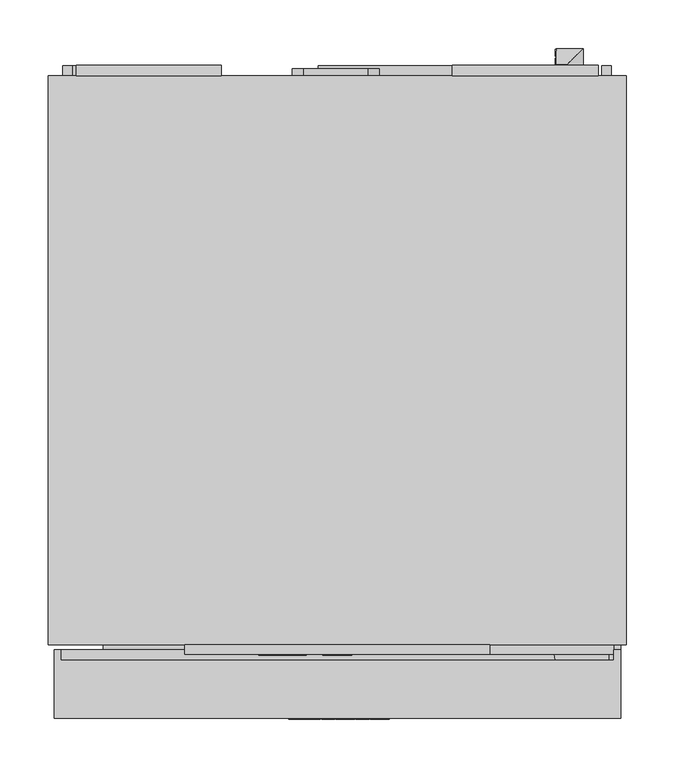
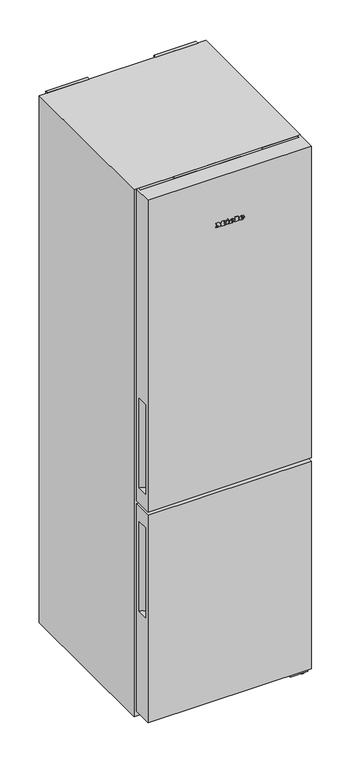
"""IFC4 building model written with IfcOpenShell, lengths in millimetres: proxy geometry, 12336270_OER_KFN4395CD_EL : 38439531_OER_12336270_KFN4395CD_EL."""

from ifc_helpers import new_model, si_unit, point, frame, frame_2d, origin, origin_with_axes, place, context, project, spatial, polyline, circle_curve, ellipse_curve, trimmed, segment, composite_curve, outline, extrude, faceted_brep, source, transform, mapped, element, save
from ifc_brep_helpers import plane_surface, cylinder_surface, revolved_surface, extruded_surface, advanced_brep


def specialty_equipment_4ecd4c18(model_context):
    return source(origin(), model_context, "Body", "SolidModel", [
        advanced_brep(
        [(42.14, -675.5, 1829.3160092), (42.14, -675.5, 1831.0330092), (53.513, -675.5, 1831.0330092), (33.725, -675.5, 1831.0330092), (38.4, -675.5, 1825.2870092), (53.224, -675.5, 1829.3160092), (48.09, -675.5, 1829.3160092), (44.044, -675.5, 1827.4120092), (42.14, -675.5, 1833.2090092), (42.14, -675.5, 1835.0620092), (45.047, -675.5, 1835.0620092), (45.047, -675.5, 1833.2090092), (42.14, -674.5, 1829.3160092), (44.044, -674.5, 1827.4120092), (48.09, -674.5, 1829.3160092), (53.224, -674.5, 1829.3160092), (38.4, -674.5, 1825.2870092), (33.725, -674.5, 1831.0330092), (53.513, -674.5, 1831.0330092), (42.14, -674.5, 1831.0330092), (42.14, -674.5, 1833.2090092), (45.047, -674.5, 1833.2090092), (45.047, -674.5, 1835.0620092), (42.14, -674.5, 1835.0620092)],
        [
            (0, 1),
            (1, 2),
            (2, 3, ellipse_curve(frame((43.619, -675.5, 1831.0330092), z_axis=(0.0, -1.0, 0.0), x_axis=(-1.0, 0.0, 0.0)), 9.894, 8.177)),
            (3, 4, circle_curve(frame((40.3040927, -675.5, 1831.6110092), z_axis=(0.0, -1.0, 0.0), x_axis=(0.0, 0.0, -1.0)), 6.6044337)),
            (4, 5, circle_curve(frame((43.4209364, -675.5, 1836.0990092), z_axis=(0.0, -1.0, 0.0), x_axis=(0.0, 0.0, -1.0)), 11.9209541)),
            (5, 6),
            (6, 7, circle_curve(frame((44.875, -675.5, 1830.8970092), z_axis=(0.0, 1.0, 0.0), x_axis=(0.0, 0.0, -1.0)), 3.5827065)),
            (7, 0, circle_curve(frame((44.044, -675.5, 1829.3160092), z_axis=(0.0, 1.0, 0.0), x_axis=(0.0, 0.0, -1.0)), 1.904)),
            (8, 9),
            (9, 10, circle_curve(frame((43.5935, -675.5, 1835.0620092), z_axis=(0.0, 1.0, 0.0), x_axis=(0.0, 0.0, -1.0)), 1.4535)),
            (10, 11),
            (11, 8),
            (12, 13, circle_curve(frame((44.044, -674.5, 1829.3160092), z_axis=(0.0, -1.0, 0.0), x_axis=(0.0, 0.0, -1.0)), 1.904)),
            (13, 14, circle_curve(frame((44.875, -674.5, 1830.8970092), z_axis=(0.0, -1.0, 0.0), x_axis=(0.0, 0.0, -1.0)), 3.5827065)),
            (14, 15),
            (15, 16, circle_curve(frame((43.4209364, -674.5, 1836.0990092), z_axis=(0.0, 1.0, 0.0), x_axis=(0.0, 0.0, -1.0)), 11.9209541)),
            (16, 17, circle_curve(frame((40.3040927, -674.5, 1831.6110092), z_axis=(0.0, 1.0, 0.0), x_axis=(0.0, 0.0, -1.0)), 6.6044337)),
            (17, 18, ellipse_curve(frame((43.619, -674.5, 1831.0330092), z_axis=(0.0, 1.0, 0.0), x_axis=(-1.0, 0.0, 0.0)), 9.894, 8.177)),
            (18, 19),
            (19, 12),
            (20, 21),
            (21, 22),
            (22, 23, circle_curve(frame((43.5935, -674.5, 1835.0620092), z_axis=(0.0, -1.0, 0.0), x_axis=(0.0, 0.0, -1.0)), 1.4535)),
            (23, 20),
            (0, 12),
            (19, 1),
            (18, 2),
            (5, 15),
            (14, 6),
            (17, 3),
            (13, 7),
            (16, 4),
            (8, 20),
            (23, 9),
            (22, 10),
            (21, 11),
        ],
        [
            plane_surface(frame((42.14, -675.5, 1831.0330092), z_axis=(0.0, -1.0, 0.0), x_axis=(0.0, 0.0, 1.0))),
            plane_surface(frame((42.14, -674.5, 1831.0330092), z_axis=(0.0, 1.0, 0.0), x_axis=(0.0, 0.0, -1.0))),
            plane_surface(frame((42.14, -675.5, 1829.3160092), z_axis=(1.0, 0.0, 0.0), x_axis=(0.0, 1.0, 0.0))),
            plane_surface(frame((42.14, -675.5, 1831.0330092), z_axis=(0.0, 0.0, -1.0), x_axis=(0.0, 1.0, 0.0))),
            plane_surface(frame((53.224, -675.5, 1829.3160092), z_axis=(0.0, 0.0, 1.0), x_axis=(0.0, 1.0, 0.0))),
            extruded_surface(trimmed(ellipse_curve(frame((43.619, -673.5, 1831.0330092), z_axis=(0.0, -1.0, 0.0), x_axis=(-1.0, 0.0, 0.0)), 9.894, 8.177), [point((53.513, -673.5, 1831.0330092))], [point((33.725, -673.5, 1831.0330092))], True, "CARTESIAN"), (0.0, -1.0, 0.0), 1.0),
            revolved_surface(polyline([(44.875, -674.5, 1827.3143026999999), (44.875, -675.5, 1827.3143026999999)]), (44.875, -674.5, 1830.8970092), (0.0, 1.0, 0.0)),
            revolved_surface(polyline([(44.044, -674.5, 1827.4120092), (44.044, -675.5, 1827.4120092)]), (44.044, -674.5, 1829.3160092), (0.0, 1.0, 0.0)),
            cylinder_surface(frame((40.3040927, -674.5, 1831.6110092), z_axis=(0.0, -1.0, 0.0), x_axis=(0.0, 0.0, -1.0)), 6.6044337),
            cylinder_surface(frame((43.4209364, -674.5, 1836.0990092), z_axis=(0.0, -1.0, 0.0), x_axis=(0.0, 0.0, -1.0)), 11.9209541),
            plane_surface(frame((42.14, -675.5, 1833.2090092), z_axis=(1.0, 0.0, 0.0), x_axis=(0.0, 1.0, 0.0))),
            revolved_surface(polyline([(43.5935, -674.5, 1833.6085091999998), (43.5935, -675.5, 1833.6085091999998)]), (43.5935, -674.5, 1835.0620092), (0.0, 1.0, 0.0)),
            plane_surface(frame((45.047, -675.5, 1835.0620092), z_axis=(-1.0, 0.0, 0.0), x_axis=(0.0, 1.0, 0.0))),
            plane_surface(frame((45.047, -675.5, 1833.2090092), z_axis=(0.0, 0.0, 1.0), x_axis=(0.0, 1.0, 0.0))),
        ],
        [
            (0, [[1, 2, 3, 4, 5, 6, 7, 8], [9, 10, 11, 12]]),
            (1, [[13, 14, 15, 16, 17, 18, 19, 20], [21, 22, 23, 24]]),
            (2, [[-1, 25, -20, 26]]),
            (3, [[-2, -26, -19, 27]]),
            (4, [[-6, 28, -15, 29]]),
            (5, [[-3, -27, -18, 30]]),
            (6, [[-7, -29, -14, 31]]),
            (7, [[-8, -31, -13, -25]]),
            (8, [[-4, -30, -17, 32]]),
            (9, [[-5, -32, -16, -28]]),
            (10, [[-9, 33, -24, 34]]),
            (11, [[-10, -34, -23, 35]]),
            (12, [[-11, -35, -22, 36]]),
            (13, [[-12, -36, -21, -33]]),
        ],
    ),
        advanced_brep(
        [(6.661, -675.5, 1829.3160092), (6.661, -675.5, 1831.0330092), (18.034, -675.5, 1831.0330092), (-1.754, -675.5, 1831.0330092), (2.921, -675.5, 1825.2870092), (17.745, -675.5, 1829.3160092), (12.611, -675.5, 1829.3160092), (8.565, -675.5, 1827.4120092), (6.661, -675.5, 1833.2090092), (6.661, -675.5, 1835.0620092), (9.568, -675.5, 1835.0620092), (9.568, -675.5, 1833.2090092), (6.661, -674.5, 1829.3160092), (8.565, -674.5, 1827.4120092), (12.611, -674.5, 1829.3160092), (17.745, -674.5, 1829.3160092), (2.921, -674.5, 1825.2870092), (-1.754, -674.5, 1831.0330092), (18.034, -674.5, 1831.0330092), (6.661, -674.5, 1831.0330092), (6.661, -674.5, 1833.2090092), (9.568, -674.5, 1833.2090092), (9.568, -674.5, 1835.0620092), (6.661, -674.5, 1835.0620092)],
        [
            (0, 1),
            (1, 2),
            (2, 3, ellipse_curve(frame((8.14, -675.5, 1831.0330092), z_axis=(0.0, -1.0, 0.0), x_axis=(-1.0, 0.0, 0.0)), 9.894, 8.177)),
            (3, 4, circle_curve(frame((4.8250927, -675.5, 1831.6110092), z_axis=(0.0, -1.0, 0.0), x_axis=(0.0, 0.0, -1.0)), 6.6044337)),
            (4, 5, circle_curve(frame((7.9419364, -675.5, 1836.0990092), z_axis=(0.0, -1.0, 0.0), x_axis=(0.0, 0.0, -1.0)), 11.9209541)),
            (5, 6),
            (6, 7, circle_curve(frame((9.396, -675.5, 1830.8970092), z_axis=(0.0, 1.0, 0.0), x_axis=(0.0, 0.0, -1.0)), 3.5827065)),
            (7, 0, circle_curve(frame((8.565, -675.5, 1829.3160092), z_axis=(0.0, 1.0, 0.0), x_axis=(0.0, 0.0, -1.0)), 1.904)),
            (8, 9),
            (9, 10, circle_curve(frame((8.1145, -675.5, 1835.0620092), z_axis=(0.0, 1.0, 0.0), x_axis=(0.0, 0.0, -1.0)), 1.4535)),
            (10, 11),
            (11, 8),
            (12, 13, circle_curve(frame((8.565, -674.5, 1829.3160092), z_axis=(0.0, -1.0, 0.0), x_axis=(0.0, 0.0, -1.0)), 1.904)),
            (13, 14, circle_curve(frame((9.396, -674.5, 1830.8970092), z_axis=(0.0, -1.0, 0.0), x_axis=(0.0, 0.0, -1.0)), 3.5827065)),
            (14, 15),
            (15, 16, circle_curve(frame((7.9419364, -674.5, 1836.0990092), z_axis=(0.0, 1.0, 0.0), x_axis=(0.0, 0.0, -1.0)), 11.9209541)),
            (16, 17, circle_curve(frame((4.8250927, -674.5, 1831.6110092), z_axis=(0.0, 1.0, 0.0), x_axis=(0.0, 0.0, -1.0)), 6.6044337)),
            (17, 18, ellipse_curve(frame((8.14, -674.5, 1831.0330092), z_axis=(0.0, 1.0, 0.0), x_axis=(-1.0, 0.0, 0.0)), 9.894, 8.177)),
            (18, 19),
            (19, 12),
            (20, 21),
            (21, 22),
            (22, 23, circle_curve(frame((8.1145, -674.5, 1835.0620092), z_axis=(0.0, -1.0, 0.0), x_axis=(0.0, 0.0, -1.0)), 1.4535)),
            (23, 20),
            (0, 12),
            (19, 1),
            (18, 2),
            (5, 15),
            (14, 6),
            (17, 3),
            (13, 7),
            (16, 4),
            (8, 20),
            (23, 9),
            (22, 10),
            (21, 11),
        ],
        [
            plane_surface(frame((6.661, -675.5, 1831.0330092), z_axis=(0.0, -1.0, 0.0), x_axis=(0.0, 0.0, 1.0))),
            plane_surface(frame((6.661, -674.5, 1831.0330092), z_axis=(0.0, 1.0, 0.0), x_axis=(0.0, 0.0, -1.0))),
            plane_surface(frame((6.661, -675.5, 1829.3160092), z_axis=(1.0, 0.0, 0.0), x_axis=(0.0, 1.0, 0.0))),
            plane_surface(frame((6.661, -675.5, 1831.0330092), z_axis=(0.0, 0.0, -1.0), x_axis=(0.0, 1.0, 0.0))),
            plane_surface(frame((17.745, -675.5, 1829.3160092), z_axis=(0.0, 0.0, 1.0), x_axis=(0.0, 1.0, 0.0))),
            extruded_surface(trimmed(ellipse_curve(frame((8.14, -673.5, 1831.0330092), z_axis=(0.0, -1.0, 0.0), x_axis=(-1.0, 0.0, 0.0)), 9.894, 8.177), [point((18.034, -673.5, 1831.0330092))], [point((-1.754, -673.5, 1831.0330092))], True, "CARTESIAN"), (0.0, -1.0, 0.0), 1.0),
            revolved_surface(polyline([(9.396, -674.5, 1827.3143026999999), (9.396, -675.5, 1827.3143026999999)]), (9.396, -674.5, 1830.8970092), (0.0, 1.0, 0.0)),
            revolved_surface(polyline([(8.565, -674.5, 1827.4120092), (8.565, -675.5, 1827.4120092)]), (8.565, -674.5, 1829.3160092), (0.0, 1.0, 0.0)),
            cylinder_surface(frame((4.8250927, -674.5, 1831.6110092), z_axis=(0.0, -1.0, 0.0), x_axis=(0.0, 0.0, -1.0)), 6.6044337),
            cylinder_surface(frame((7.9419364, -674.5, 1836.0990092), z_axis=(0.0, -1.0, 0.0), x_axis=(0.0, 0.0, -1.0)), 11.9209541),
            plane_surface(frame((6.661, -675.5, 1833.2090092), z_axis=(1.0, 0.0, 0.0), x_axis=(0.0, 1.0, 0.0))),
            revolved_surface(polyline([(8.1145, -674.5, 1833.6085091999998), (8.1145, -675.5, 1833.6085091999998)]), (8.1145, -674.5, 1835.0620092), (0.0, 1.0, 0.0)),
            plane_surface(frame((9.568, -675.5, 1835.0620092), z_axis=(-1.0, 0.0, 0.0), x_axis=(0.0, 1.0, 0.0))),
            plane_surface(frame((9.568, -675.5, 1833.2090092), z_axis=(0.0, 0.0, 1.0), x_axis=(0.0, 1.0, 0.0))),
        ],
        [
            (0, [[1, 2, 3, 4, 5, 6, 7, 8], [9, 10, 11, 12]]),
            (1, [[13, 14, 15, 16, 17, 18, 19, 20], [21, 22, 23, 24]]),
            (2, [[-1, 25, -20, 26]]),
            (3, [[-2, -26, -19, 27]]),
            (4, [[-6, 28, -15, 29]]),
            (5, [[-3, -27, -18, 30]]),
            (6, [[-7, -29, -14, 31]]),
            (7, [[-8, -31, -13, -25]]),
            (8, [[-4, -30, -17, 32]]),
            (9, [[-5, -32, -16, -28]]),
            (10, [[-9, 33, -24, 34]]),
            (11, [[-10, -34, -23, 35]]),
            (12, [[-11, -35, -22, 36]]),
            (13, [[-12, -36, -21, -33]]),
        ],
    ),
        extrude(outline(polyline([(1841.2840092, -11.92), (1838.5300092, -10.628), (1841.2160092, -4.865), (1843.9700092, -6.14), (1841.2840092, -11.92)])), frame((0.0, -675.5, 0.0), z_axis=(0.0, 1.0, 0.0), x_axis=(0.0, 0.0, 1.0)), (0.0, 0.0, 1.0), 1.0),
        extrude(outline(polyline([(1838.1560092, -16.119), (1835.1130092, -16.119), (1835.1130092, -14.096), (1828.1430092, -14.096), (1828.1430092, -16.119), (1825.2870092, -16.119), (1825.2870092, -2.706), (1828.1430092, -2.706), (1828.1430092, -4.678), (1838.1560092, -4.678), (1838.1560092, -16.119)])), frame((0.0, -675.5, 0.0), z_axis=(0.0, 1.0, 0.0), x_axis=(0.0, 0.0, 1.0)), (0.0, 0.0, 1.0), 1.0),
        extrude(outline(polyline([(1839.5160092, 18.986), (1839.5160092, 21.026), (1828.1430092, 21.026), (1828.1430092, 18.986), (1825.2870092, 18.986), (1825.2870092, 32.773), (1828.1430092, 32.773), (1828.1430092, 30.682), (1842.2870092, 30.682), (1842.2870092, 18.986), (1839.5160092, 18.986)])), frame((0.0, -675.5, 0.0), z_axis=(0.0, 1.0, 0.0), x_axis=(0.0, 0.0, 1.0)), (0.0, 0.0, 1.0), 1.0),
        extrude(outline(polyline([(1839.5160092, -50.0), (1839.5160092, -47.943), (1828.1430092, -47.943), (1828.1430092, -50.0), (1825.2870092, -50.0), (1825.2870092, -42.52), (1828.1430092, -42.52), (1828.1430092, -44.56), (1835.317134, -44.56), (1825.2870092, -36.961), (1835.7272315, -29.328), (1828.1430092, -29.328), (1828.1430092, -31.419), (1825.2870092, -31.419), (1825.2870092, -17.853), (1828.1430092, -17.853), (1828.1430092, -20.012), (1839.5160092, -20.012), (1839.5160092, -17.853), (1842.2870092, -17.853), (1842.2870092, -28.206), (1835.9120092, -33.17), (1842.2870092, -38.151), (1842.2870092, -50.0), (1839.5160092, -50.0)])), frame((0.0, -675.5, 0.0), z_axis=(0.0, 1.0, 0.0), x_axis=(0.0, 0.0, 1.0)), (0.0, 0.0, 1.0), 1.0),
        advanced_brep(
        [(-37.64, -609.5, 1987.896), (-37.64, -609.5, 1988.704), (-32.288, -609.5, 1988.704), (-41.6, -609.5, 1988.704), (-39.4, -609.5, 1986.0), (-32.424, -609.5, 1987.896), (-34.84, -609.5, 1987.896), (-36.744, -609.5, 1987.0), (-37.64, -609.5, 1989.728), (-37.64, -609.5, 1990.6), (-36.272, -609.5, 1990.6), (-36.272, -609.5, 1989.728), (-37.64, -608.5, 1987.896), (-36.744, -608.5, 1987.0), (-34.84, -608.5, 1987.896), (-32.424, -608.5, 1987.896), (-39.4, -608.5, 1986.0), (-41.6, -608.5, 1988.704), (-32.288, -608.5, 1988.704), (-37.64, -608.5, 1988.704), (-37.64, -608.5, 1989.728), (-36.272, -608.5, 1989.728), (-36.272, -608.5, 1990.6), (-37.64, -608.5, 1990.6)],
        [
            (0, 1),
            (1, 2),
            (2, 3, ellipse_curve(frame((-36.944, -609.5, 1988.704), z_axis=(0.0, -1.0, 0.0), x_axis=(-1.0, 0.0, 0.0)), 4.656, 3.848)),
            (3, 4, circle_curve(frame((-38.5039564, -609.5, 1988.976), z_axis=(0.0, -1.0, 0.0), x_axis=(0.0, 0.0, -1.0)), 3.1079688)),
            (4, 5, circle_curve(frame((-37.0372064, -609.5, 1991.088), z_axis=(0.0, -1.0, 0.0), x_axis=(0.0, 0.0, -1.0)), 5.6098607)),
            (5, 6),
            (6, 7, circle_curve(frame((-36.3529412, -609.5, 1988.64), z_axis=(0.0, 1.0, 0.0), x_axis=(0.0, 0.0, -1.0)), 1.6859795)),
            (7, 0, circle_curve(frame((-36.744, -609.5, 1987.896), z_axis=(0.0, 1.0, 0.0), x_axis=(0.0, 0.0, -1.0)), 0.896)),
            (8, 9),
            (9, 10, circle_curve(frame((-36.956, -609.5, 1990.6), z_axis=(0.0, 1.0, 0.0), x_axis=(0.0, 0.0, -1.0)), 0.684)),
            (10, 11),
            (11, 8),
            (12, 13, circle_curve(frame((-36.744, -608.5, 1987.896), z_axis=(0.0, -1.0, 0.0), x_axis=(0.0, 0.0, -1.0)), 0.896)),
            (13, 14, circle_curve(frame((-36.3529412, -608.5, 1988.64), z_axis=(0.0, -1.0, 0.0), x_axis=(0.0, 0.0, -1.0)), 1.6859795)),
            (14, 15),
            (15, 16, circle_curve(frame((-37.0372064, -608.5, 1991.088), z_axis=(0.0, 1.0, 0.0), x_axis=(0.0, 0.0, -1.0)), 5.6098607)),
            (16, 17, circle_curve(frame((-38.5039564, -608.5, 1988.976), z_axis=(0.0, 1.0, 0.0), x_axis=(0.0, 0.0, -1.0)), 3.1079688)),
            (17, 18, ellipse_curve(frame((-36.944, -608.5, 1988.704), z_axis=(0.0, 1.0, 0.0), x_axis=(-1.0, 0.0, 0.0)), 4.656, 3.848)),
            (18, 19),
            (19, 12),
            (20, 21),
            (21, 22),
            (22, 23, circle_curve(frame((-36.956, -608.5, 1990.6), z_axis=(0.0, -1.0, 0.0), x_axis=(0.0, 0.0, -1.0)), 0.684)),
            (23, 20),
            (0, 12),
            (19, 1),
            (18, 2),
            (5, 15),
            (14, 6),
            (17, 3),
            (13, 7),
            (16, 4),
            (8, 20),
            (23, 9),
            (22, 10),
            (21, 11),
        ],
        [
            plane_surface(frame((-37.64, -609.5, 1988.704), z_axis=(0.0, -1.0, 0.0), x_axis=(0.0, 0.0, 1.0))),
            plane_surface(frame((-37.64, -608.5, 1988.704), z_axis=(0.0, 1.0, 0.0), x_axis=(0.0, 0.0, -1.0))),
            plane_surface(frame((-37.64, -609.5, 1987.896), z_axis=(1.0, 0.0, 0.0), x_axis=(0.0, 1.0, 0.0))),
            plane_surface(frame((-37.64, -609.5, 1988.704), z_axis=(0.0, 0.0, -1.0), x_axis=(0.0, 1.0, 0.0))),
            plane_surface(frame((-32.424, -609.5, 1987.896), z_axis=(0.0, 0.0, 1.0), x_axis=(0.0, 1.0, 0.0))),
            extruded_surface(trimmed(ellipse_curve(frame((-36.944, -607.5, 1988.704), z_axis=(0.0, -1.0, 0.0), x_axis=(-1.0, 0.0, 0.0)), 4.656, 3.848), [point((-32.288, -607.5, 1988.704))], [point((-41.6, -607.5, 1988.704))], True, "CARTESIAN"), (0.0, -1.0, 0.0), 1.0),
            revolved_surface(polyline([(-36.3529412, -608.5, 1986.9540205), (-36.3529412, -609.5, 1986.9540205)]), (-36.3529412, -608.5, 1988.64), (0.0, 1.0, 0.0)),
            revolved_surface(polyline([(-36.744, -608.5, 1987.0), (-36.744, -609.5, 1987.0)]), (-36.744, -608.5, 1987.896), (0.0, 1.0, 0.0)),
            cylinder_surface(frame((-38.5039564, -608.5, 1988.976), z_axis=(0.0, -1.0, 0.0), x_axis=(0.0, 0.0, -1.0)), 3.1079688),
            cylinder_surface(frame((-37.0372064, -608.5, 1991.088), z_axis=(0.0, -1.0, 0.0), x_axis=(0.0, 0.0, -1.0)), 5.6098607),
            plane_surface(frame((-37.64, -609.5, 1989.728), z_axis=(1.0, 0.0, 0.0), x_axis=(0.0, 1.0, 0.0))),
            revolved_surface(polyline([(-36.956, -608.5, 1989.916), (-36.956, -609.5, 1989.916)]), (-36.956, -608.5, 1990.6), (0.0, 1.0, 0.0)),
            plane_surface(frame((-36.272, -609.5, 1990.6), z_axis=(-1.0, 0.0, 0.0), x_axis=(0.0, 1.0, 0.0))),
            plane_surface(frame((-36.272, -609.5, 1989.728), z_axis=(0.0, 0.0, 1.0), x_axis=(0.0, 1.0, 0.0))),
        ],
        [
            (0, [[1, 2, 3, 4, 5, 6, 7, 8], [9, 10, 11, 12]]),
            (1, [[13, 14, 15, 16, 17, 18, 19, 20], [21, 22, 23, 24]]),
            (2, [[-1, 25, -20, 26]]),
            (3, [[-2, -26, -19, 27]]),
            (4, [[-6, 28, -15, 29]]),
            (5, [[-3, -27, -18, 30]]),
            (6, [[-7, -29, -14, 31]]),
            (7, [[-8, -31, -13, -25]]),
            (8, [[-4, -30, -17, 32]]),
            (9, [[-5, -32, -16, -28]]),
            (10, [[-9, 33, -24, 34]]),
            (11, [[-10, -34, -23, 35]]),
            (12, [[-11, -35, -22, 36]]),
            (13, [[-12, -36, -21, -33]]),
        ],
    ),
        advanced_brep(
        [(-54.336, -609.5, 1987.896), (-54.336, -609.5, 1988.704), (-48.984, -609.5, 1988.704), (-58.296, -609.5, 1988.704), (-56.096, -609.5, 1986.0), (-49.12, -609.5, 1987.896), (-51.536, -609.5, 1987.896), (-53.44, -609.5, 1987.0), (-54.336, -609.5, 1989.728), (-54.336, -609.5, 1990.6), (-52.968, -609.5, 1990.6), (-52.968, -609.5, 1989.728), (-54.336, -608.5, 1987.896), (-53.44, -608.5, 1987.0), (-51.536, -608.5, 1987.896), (-49.12, -608.5, 1987.896), (-56.096, -608.5, 1986.0), (-58.296, -608.5, 1988.704), (-48.984, -608.5, 1988.704), (-54.336, -608.5, 1988.704), (-54.336, -608.5, 1989.728), (-52.968, -608.5, 1989.728), (-52.968, -608.5, 1990.6), (-54.336, -608.5, 1990.6)],
        [
            (0, 1),
            (1, 2),
            (2, 3, ellipse_curve(frame((-53.64, -609.5, 1988.704), z_axis=(0.0, -1.0, 0.0), x_axis=(-1.0, 0.0, 0.0)), 4.656, 3.848)),
            (3, 4, circle_curve(frame((-55.1999564, -609.5, 1988.976), z_axis=(0.0, -1.0, 0.0), x_axis=(0.0, 0.0, -1.0)), 3.1079688)),
            (4, 5, circle_curve(frame((-53.7332064, -609.5, 1991.088), z_axis=(0.0, -1.0, 0.0), x_axis=(0.0, 0.0, -1.0)), 5.6098607)),
            (5, 6),
            (6, 7, circle_curve(frame((-53.0489412, -609.5, 1988.64), z_axis=(0.0, 1.0, 0.0), x_axis=(0.0, 0.0, -1.0)), 1.6859795)),
            (7, 0, circle_curve(frame((-53.44, -609.5, 1987.896), z_axis=(0.0, 1.0, 0.0), x_axis=(0.0, 0.0, -1.0)), 0.896)),
            (8, 9),
            (9, 10, circle_curve(frame((-53.652, -609.5, 1990.6), z_axis=(0.0, 1.0, 0.0), x_axis=(0.0, 0.0, -1.0)), 0.684)),
            (10, 11),
            (11, 8),
            (12, 13, circle_curve(frame((-53.44, -608.5, 1987.896), z_axis=(0.0, -1.0, 0.0), x_axis=(0.0, 0.0, -1.0)), 0.896)),
            (13, 14, circle_curve(frame((-53.0489412, -608.5, 1988.64), z_axis=(0.0, -1.0, 0.0), x_axis=(0.0, 0.0, -1.0)), 1.6859795)),
            (14, 15),
            (15, 16, circle_curve(frame((-53.7332064, -608.5, 1991.088), z_axis=(0.0, 1.0, 0.0), x_axis=(0.0, 0.0, -1.0)), 5.6098607)),
            (16, 17, circle_curve(frame((-55.1999564, -608.5, 1988.976), z_axis=(0.0, 1.0, 0.0), x_axis=(0.0, 0.0, -1.0)), 3.1079688)),
            (17, 18, ellipse_curve(frame((-53.64, -608.5, 1988.704), z_axis=(0.0, 1.0, 0.0), x_axis=(-1.0, 0.0, 0.0)), 4.656, 3.848)),
            (18, 19),
            (19, 12),
            (20, 21),
            (21, 22),
            (22, 23, circle_curve(frame((-53.652, -608.5, 1990.6), z_axis=(0.0, -1.0, 0.0), x_axis=(0.0, 0.0, -1.0)), 0.684)),
            (23, 20),
            (0, 12),
            (19, 1),
            (18, 2),
            (5, 15),
            (14, 6),
            (17, 3),
            (13, 7),
            (16, 4),
            (8, 20),
            (23, 9),
            (22, 10),
            (21, 11),
        ],
        [
            plane_surface(frame((-54.336, -609.5, 1988.704), z_axis=(0.0, -1.0, 0.0), x_axis=(0.0, 0.0, 1.0))),
            plane_surface(frame((-54.336, -608.5, 1988.704), z_axis=(0.0, 1.0, 0.0), x_axis=(0.0, 0.0, -1.0))),
            plane_surface(frame((-54.336, -609.5, 1987.896), z_axis=(1.0, 0.0, 0.0), x_axis=(0.0, 1.0, 0.0))),
            plane_surface(frame((-54.336, -609.5, 1988.704), z_axis=(0.0, 0.0, -1.0), x_axis=(0.0, 1.0, 0.0))),
            plane_surface(frame((-49.12, -609.5, 1987.896), z_axis=(0.0, 0.0, 1.0), x_axis=(0.0, 1.0, 0.0))),
            extruded_surface(trimmed(ellipse_curve(frame((-53.64, -607.5, 1988.704), z_axis=(0.0, -1.0, 0.0), x_axis=(-1.0, 0.0, 0.0)), 4.656, 3.848), [point((-48.984, -607.5, 1988.704))], [point((-58.296, -607.5, 1988.704))], True, "CARTESIAN"), (0.0, -1.0, 0.0), 1.0),
            revolved_surface(polyline([(-53.0489412, -608.5, 1986.9540205), (-53.0489412, -609.5, 1986.9540205)]), (-53.0489412, -608.5, 1988.64), (0.0, 1.0, 0.0)),
            revolved_surface(polyline([(-53.44, -608.5, 1987.0), (-53.44, -609.5, 1987.0)]), (-53.44, -608.5, 1987.896), (0.0, 1.0, 0.0)),
            cylinder_surface(frame((-55.1999564, -608.5, 1988.976), z_axis=(0.0, -1.0, 0.0), x_axis=(0.0, 0.0, -1.0)), 3.1079688),
            cylinder_surface(frame((-53.7332064, -608.5, 1991.088), z_axis=(0.0, -1.0, 0.0), x_axis=(0.0, 0.0, -1.0)), 5.6098607),
            plane_surface(frame((-54.336, -609.5, 1989.728), z_axis=(1.0, 0.0, 0.0), x_axis=(0.0, 1.0, 0.0))),
            revolved_surface(polyline([(-53.652, -608.5, 1989.916), (-53.652, -609.5, 1989.916)]), (-53.652, -608.5, 1990.6), (0.0, 1.0, 0.0)),
            plane_surface(frame((-52.968, -609.5, 1990.6), z_axis=(-1.0, 0.0, 0.0), x_axis=(0.0, 1.0, 0.0))),
            plane_surface(frame((-52.968, -609.5, 1989.728), z_axis=(0.0, 0.0, 1.0), x_axis=(0.0, 1.0, 0.0))),
        ],
        [
            (0, [[1, 2, 3, 4, 5, 6, 7, 8], [9, 10, 11, 12]]),
            (1, [[13, 14, 15, 16, 17, 18, 19, 20], [21, 22, 23, 24]]),
            (2, [[-1, 25, -20, 26]]),
            (3, [[-2, -26, -19, 27]]),
            (4, [[-6, 28, -15, 29]]),
            (5, [[-3, -27, -18, 30]]),
            (6, [[-7, -29, -14, 31]]),
            (7, [[-8, -31, -13, -25]]),
            (8, [[-4, -30, -17, 32]]),
            (9, [[-5, -32, -16, -28]]),
            (10, [[-9, 33, -24, 34]]),
            (11, [[-10, -34, -23, 35]]),
            (12, [[-11, -35, -22, 36]]),
            (13, [[-12, -36, -21, -33]]),
        ],
    ),
        extrude(outline(polyline([(1993.528, -63.08), (1992.232, -62.472), (1993.496, -59.76), (1994.792, -60.36), (1993.528, -63.08)])), frame((0.0, -609.5, 0.0), z_axis=(0.0, 1.0, 0.0), x_axis=(0.0, 0.0, 1.0)), (0.0, 0.0, 1.0), 1.0),
        extrude(outline(polyline([(1992.056, -65.056), (1990.624, -65.056), (1990.624, -64.104), (1987.344, -64.104), (1987.344, -65.056), (1986.0, -65.056), (1986.0, -58.744), (1987.344, -58.744), (1987.344, -59.672), (1992.056, -59.672), (1992.056, -65.056)])), frame((0.0, -609.5, 0.0), z_axis=(0.0, 1.0, 0.0), x_axis=(0.0, 0.0, 1.0)), (0.0, 0.0, 1.0), 1.0),
        extrude(outline(polyline([(1992.696, -48.536), (1992.696, -47.576), (1987.344, -47.576), (1987.344, -48.536), (1986.0, -48.536), (1986.0, -42.048), (1987.344, -42.048), (1987.344, -43.032), (1994.0, -43.032), (1994.0, -48.536), (1992.696, -48.536)])), frame((0.0, -609.5, 0.0), z_axis=(0.0, 1.0, 0.0), x_axis=(0.0, 0.0, 1.0)), (0.0, 0.0, 1.0), 1.0),
        extrude(outline(polyline([(1992.696, -81.0), (1992.696, -80.032), (1987.344, -80.032), (1987.344, -81.0), (1986.0, -81.0), (1986.0, -77.48), (1987.344, -77.48), (1987.344, -78.44), (1990.7471247, -78.44), (1986.0, -74.864), (1990.8152223, -71.272), (1987.344, -71.272), (1987.344, -72.256), (1986.0, -72.256), (1986.0, -65.872), (1987.344, -65.872), (1987.344, -66.888), (1992.696, -66.888), (1992.696, -65.872), (1994.0, -65.872), (1994.0, -70.744), (1991.0, -73.08), (1994.0, -75.424), (1994.0, -81.0), (1992.696, -81.0)])), frame((0.0, -609.5, 0.0), z_axis=(0.0, 1.0, 0.0), x_axis=(0.0, 0.0, 1.0)), (0.0, 0.0, 1.0), 1.0),
        extrude(outline(polyline([(15.0, -609.5), (-15.0, -609.5), (-15.0, -606.5), (15.0, -606.5), (15.0, -609.5)])), frame((0.0, 0.0, 1972.0), z_axis=(0.0, 0.0, 1.0), x_axis=(1.0, 0.0, 0.0)), (0.0, 0.0, 1.0), 28.0),
        extrude(outline(polyline([(2005.5, 105.0), (2005.5, -105.0), (1966.5, -105.0), (1966.5, 105.0), (2005.5, 105.0)]), holes=[polyline([(2000.0, -15.0), (2000.0, 15.0), (1972.0, 15.0), (1972.0, -15.0), (2000.0, -15.0)])]), frame((0.0, -608.5, 0.0), z_axis=(0.0, 1.0, 0.0), x_axis=(0.0, 0.0, 1.0)), (0.0, 0.0, 1.0), 2.0),
        faceted_brep([(157.5, -598.5, 1962.0), (157.5, -608.5, 1962.0), (-157.5, -608.5, 1962.0), (-157.5, -598.5, 1962.0), (157.5, -598.5, 2010.0), (-157.5, -598.5, 2010.0), (-157.5, -608.5, 2010.0), (157.5, -608.5, 2010.0), (-105.0, -608.5, 2005.5), (105.0, -608.5, 2005.5), (105.0, -608.5, 1966.5), (-105.0, -608.5, 1966.5), (105.0, -606.5, 2005.5), (-105.0, -606.5, 2005.5), (-105.0, -606.5, 1966.5), (105.0, -606.5, 1966.5)], [[[0, 1, 2, 3]], [[4, 5, 6, 7]], [[0, 3, 5, 4]], [[3, 2, 6, 5]], [[2, 1, 7, 6], [8, 9, 10, 11]], [[1, 0, 4, 7]], [[12, 13, 14, 15]], [[13, 12, 9, 8]], [[14, 13, 8, 11]], [[15, 14, 11, 10]], [[12, 15, 10, 9]]]),
        extrude(outline(polyline([(282.8810028, -10.5), (272.8810028, -10.5), (272.8810028, 0.0), (282.8810028, 0.0), (282.8810028, -10.5)])), frame((0.0, 0.0, 237.8679319), z_axis=(0.0, 0.0, 1.0), x_axis=(1.0, 0.0, 0.0)), (0.0, 0.0, 1.0), 20.0),
        extrude(outline(polyline([(-273.8280905, -10.5), (-283.8280905, -10.5), (-283.8280905, 0.0), (-273.8280905, 0.0), (-273.8280905, -10.5)])), frame((0.0, 0.0, 238.6137901), z_axis=(0.0, 0.0, 1.0), x_axis=(1.0, 0.0, 0.0)), (0.0, 0.0, 1.0), 20.0),
        extrude(outline(composite_curve([segment(trimmed(circle_curve(frame_2d((840.8612688, -34.7533113)), 12.0), [point((852.8612688, -34.7533113))], [point((840.8612688, -46.7533113))], False, "CARTESIAN"), True, "CONTINUOUS"), segment(polyline([(840.8612688, -46.7533113), (814.8612688, -46.7533113)]), True, "CONTINUOUS"), segment(trimmed(circle_curve(frame_2d((814.8612688, -34.7533113)), 12.0), [point((814.8612688, -46.7533113))], [point((802.8612688, -34.7533113))], False, "CARTESIAN"), True, "CONTINUOUS"), segment(polyline([(802.8612688, -34.7533113), (802.8612688, 31.2466887)]), True, "CONTINUOUS"), segment(trimmed(circle_curve(frame_2d((814.8612688, 31.2466887)), 12.0), [point((802.8612688, 31.2466887))], [point((814.8612688, 43.2466887))], False, "CARTESIAN"), True, "CONTINUOUS"), segment(polyline([(814.8612688, 43.2466887), (840.8612688, 43.2466887)]), True, "CONTINUOUS"), segment(trimmed(circle_curve(frame_2d((840.8612688, 31.2466887)), 12.0), [point((840.8612688, 43.2466887))], [point((852.8612688, 31.2466887))], False, "CARTESIAN"), True, "CONTINUOUS"), segment(polyline([(852.8612688, 31.2466887), (852.8612688, -34.7533113)]), True, "CONTINUOUS")], self_intersect=False)), frame((0.0, -10.5, 0.0), z_axis=(0.0, 1.0, 0.0), x_axis=(0.0, 0.0, 1.0)), (0.0, 0.0, 1.0), 7.0),
        extrude(outline(polyline([(151.5, -10.5), (-19.5, -10.5), (-19.5, 0.0), (151.5, 0.0), (151.5, -10.5)])), frame((0.0, 0.0, 64.0), z_axis=(0.0, 0.0, 1.0), x_axis=(1.0, 0.0, 0.0)), (0.0, 0.0, 1.0), 96.0),
        extrude(outline(polyline([(-135.5, -10.5), (-274.5, -10.5), (-274.5, 0.0), (-135.5, 0.0), (-135.5, -10.5)])), frame((0.0, 0.0, 64.0), z_axis=(0.0, 0.0, 1.0), x_axis=(1.0, 0.0, 0.0)), (0.0, 0.0, 1.0), 96.0),
        extrude(outline(polyline([(269.5372046, -10.5), (118.7052435, -10.5), (118.7052435, 0.0), (269.5372046, 0.0), (269.5372046, -10.5)])), frame((0.0, 0.0, 1986.0), z_axis=(0.0, 0.0, 1.0), x_axis=(1.0, 0.0, 0.0)), (0.0, 0.0, 1.0), 24.0),
        extrude(outline(polyline([(-119.8489664, -10.5), (-269.5372046, -10.5), (-269.5372046, 0.0), (-119.8489664, 0.0), (-119.8489664, -10.5)])), frame((0.0, 0.0, 1986.0), z_axis=(0.0, 0.0, 1.0), x_axis=(1.0, 0.0, 0.0)), (0.0, 0.0, 1.0), 24.0),
        extrude(outline(composite_curve([segment(trimmed(circle_curve(frame_2d((-247.5, -584.5103704)), 10.0), [point((-257.5, -584.5103704))], [point((-237.5, -584.5103704))], False, "CARTESIAN"), True, "CONTINUOUS"), segment(trimmed(circle_curve(frame_2d((-247.5, -584.5103704)), 10.0), [point((-237.5, -584.5103704))], [point((-257.5, -584.5103704))], False, "CARTESIAN"), True, "CONTINUOUS")], self_intersect=False)), origin_with_axes(), (0.0, 0.0, 1.0), 15.0),
        extrude(outline(composite_curve([segment(trimmed(circle_curve(frame_2d((247.5, -584.4761218)), 10.0), [point((237.5, -584.4761218))], [point((257.5, -584.4761218))], False, "CARTESIAN"), True, "CONTINUOUS"), segment(trimmed(circle_curve(frame_2d((247.5, -584.4761218)), 10.0), [point((257.5, -584.4761218))], [point((237.5, -584.4761218))], False, "CARTESIAN"), True, "CONTINUOUS")], self_intersect=False)), origin_with_axes(), (0.0, 0.0, 1.0), 15.0),
        extrude(outline(polyline([(271.8948956, -31.0417683), (271.8948956, -529.6387407), (-271.8948956, -529.6387407), (-271.8948956, -31.0417683), (271.8948956, -31.0417683)])), frame((0.0, 0.0, 5.0), z_axis=(0.0, 0.0, 1.0), x_axis=(1.0, 0.0, 0.0)), (0.0, 0.0, 1.0), 10.0),
        faceted_brep([(298.5, -10.5, 2010.0), (-298.5, -10.5, 2010.0), (-298.5, -598.5, 2010.0), (298.5, -598.5, 2010.0), (298.5, -10.5, 15.0), (298.5, -598.5, 15.0), (-298.5, -598.5, 15.0), (-298.5, -10.5, 15.0), (-240.0, -598.5, 1945.0), (240.0, -598.5, 1945.0), (240.0, -598.5, 848.0), (-240.0, -598.5, 848.0), (-240.0, -598.5, 800.0), (240.0, -598.5, 800.0), (240.0, -598.5, 165.0), (-240.0, -598.5, 165.0), (-240.0, -71.5, 1945.0), (240.0, -71.5, 1945.0), (240.0, -71.5, 848.0), (-240.0, -71.5, 848.0), (-240.0, -71.5, 800.0), (240.0, -71.5, 800.0), (240.0, -71.5, 165.0), (-240.0, -71.5, 165.0)], [[[0, 1, 2, 3]], [[4, 5, 6, 7]], [[1, 0, 4, 7]], [[2, 1, 7, 6]], [[3, 2, 6, 5], [8, 9, 10, 11], [12, 13, 14, 15]], [[0, 3, 5, 4]], [[16, 17, 9, 8]], [[18, 19, 11, 10]], [[17, 16, 19, 18]], [[19, 16, 8, 11]], [[17, 18, 10, 9]], [[20, 21, 13, 12]], [[22, 23, 15, 14]], [[21, 20, 23, 22]], [[23, 20, 12, 15]], [[21, 22, 14, 13]]]),
        extrude(outline(polyline([(-43.4087271, 0.0), (-57.6632757, 0.0), (-61.1643134, 5.0), (-41.0771888, 5.0), (-43.4087271, 0.0)])), frame((248.5, 0.0, 0.0), z_axis=(1.0, 0.0, 0.0), x_axis=(0.0, 1.0, 0.0)), (0.0, 0.0, 1.0), 15.0),
        extrude(outline(polyline([(-43.4087271, 0.0), (-57.6632757, 0.0), (-61.1643134, 5.0), (-41.0771888, 5.0), (-43.4087271, 0.0)])), frame((-263.5, 0.0, 0.0), z_axis=(1.0, 0.0, 0.0), x_axis=(0.0, 1.0, 0.0)), (0.0, 0.0, 1.0), 15.0),
        extrude(outline(polyline([(16.8772603, 142.0), (9.5, 142.0), (9.5, 143.2557039), (15.6215564, 143.2557039), (15.6215564, 146.5519266), (9.970889, 146.5519266), (9.970889, 147.8076304), (15.6215564, 147.8076304), (15.6215564, 150.7899271), (9.656963, 150.7899271), (9.656963, 152.045631), (16.8772603, 152.045631), (16.8772603, 142.0)])), frame((224.9201307, 0.0, 0.0), z_axis=(1.0, 0.0, 0.0), x_axis=(0.0, 1.0, 0.0)), (0.0, 0.0, 1.0), 1.0),
        extrude(outline(polyline([(7.6164442, 142.0), (1.3379248, 142.0), (1.3379248, 143.2557039), (6.3607403, 143.2557039), (6.3607403, 152.045631), (7.6164442, 152.045631), (7.6164442, 142.0)])), frame((224.9201307, 0.0, 0.0), z_axis=(1.0, 0.0, 0.0), x_axis=(0.0, 1.0, 0.0)), (0.0, 0.0, 1.0), 1.0),
        advanced_brep(
        [(253.9201307, -10.5, 147.0), (237.9201307, -10.5, 147.0), (253.9201307, 17.5, 147.0), (237.9201307, 1.5, 147.0), (225.9201307, 17.5, 147.0), (225.9201307, 1.5, 147.0)],
        [
            (0, 1, circle_curve(frame((245.9201307, -10.5, 147.0), z_axis=(0.0, -1.0, 0.0), x_axis=(-1.0, 0.0, 0.0)), 8.0)),
            (1, 0, circle_curve(frame((245.9201307, -10.5, 147.0), z_axis=(0.0, -1.0, 0.0), x_axis=(-1.0, 0.0, 0.0)), 8.0)),
            (0, 2),
            (2, 3, ellipse_curve(frame((245.9201307, 9.5, 147.0), z_axis=(0.7071067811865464, -0.7071067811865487, 0.0), x_axis=(-0.7071067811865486, -0.7071067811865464, 0.0)), 11.3137085, 8.0)),
            (3, 1),
            (3, 2, ellipse_curve(frame((245.9201307, 9.5, 147.0), z_axis=(0.7071067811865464, -0.7071067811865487, 0.0), x_axis=(-0.7071067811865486, -0.7071067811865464, 0.0)), 11.3137085, 8.0)),
            (4, 5, circle_curve(frame((225.9201307, 9.5, 147.0), z_axis=(-1.0, 0.0, 0.0), x_axis=(0.0, -1.0, 0.0)), 8.0)),
            (5, 4, circle_curve(frame((225.9201307, 9.5, 147.0), z_axis=(-1.0, 0.0, 0.0), x_axis=(0.0, -1.0, 0.0)), 8.0)),
            (2, 4),
            (5, 3),
        ],
        [
            plane_surface(frame((245.9201307, -10.5, 0.0), z_axis=(0.0, -1.0, 0.0), x_axis=(0.0, 0.0, 1.0))),
            cylinder_surface(frame((245.9201307, -10.5, 147.0), z_axis=(0.0, -1.0, 0.0), x_axis=(-1.0, 0.0, 0.0)), 8.0),
            plane_surface(frame((225.9201307, 9.5, 0.0), z_axis=(-1.0, 0.0, 0.0), x_axis=(0.0, 0.0, 1.0))),
            cylinder_surface(frame((245.9201307, 9.5, 147.0), z_axis=(1.0, 0.0, 0.0), x_axis=(0.0, -1.0, 0.0)), 8.0),
        ],
        [
            (0, [[1, 2]]),
            (1, [[-1, 3, 4, 5]]),
            (1, [[-2, -5, 6, -3]]),
            (2, [[7, 8]]),
            (3, [[-4, 9, -8, 10]]),
            (3, [[-6, -10, -7, -9]]),
        ],
    ),
        extrude(outline(polyline([(-124.5, 15.0), (-80.5, 15.0), (-93.0864945, 0.0), (-111.9135055, 0.0), (-124.5, 15.0)])), frame((-288.5, 0.0, 0.0), z_axis=(1.0, 0.0, 0.0), x_axis=(0.0, 1.0, 0.0)), (0.0, 0.0, 1.0), 16.6051044),
        extrude(outline(polyline([(-124.5, 15.0), (-80.5, 15.0), (-93.0864945, 0.0), (-111.9135055, 0.0), (-124.5, 15.0)])), frame((271.8948956, 0.0, 0.0), z_axis=(1.0, 0.0, 0.0), x_axis=(0.0, 1.0, 0.0)), (0.0, 0.0, 1.0), 16.6051044),
        extrude(outline(composite_curve([segment(trimmed(circle_curve(frame_2d((277.5815065, -642.6308064)), 7.0), [point((270.5815065, -642.6308064))], [point((284.5815065, -642.6308064))], False, "CARTESIAN"), True, "CONTINUOUS"), segment(trimmed(circle_curve(frame_2d((277.5815065, -642.6308064)), 7.0), [point((284.5815065, -642.6308064))], [point((270.5815065, -642.6308064))], False, "CARTESIAN"), True, "CONTINUOUS")], self_intersect=False)), frame((0.0, 0.0, 8.0), z_axis=(0.0, 0.0, 1.0), x_axis=(1.0, 0.0, 0.0)), (0.0, 0.0, 1.0), 11.0),
        extrude(outline(polyline([(291.9120137, -660.5), (227.4892238, -660.5), (227.4892238, -603.5), (291.9120137, -603.5), (291.9120137, -660.5)])), frame((0.0, 0.0, 32.0), z_axis=(0.0, 0.0, 1.0), x_axis=(1.0, 0.0, 0.0)), (0.0, 0.0, 1.0), 4.0),
        advanced_brep(
        [(285.5, -614.5, 1959.0), (285.5, -603.5, 1959.0), (-285.5, -603.5, 1959.0), (-285.5, -614.5, 1959.0), (-285.5, -614.5, 2014.0), (285.5, -614.5, 2014.0), (190.0, -614.5, 2009.0), (190.0, -614.5, 1964.0), (283.0, -614.5, 1964.0), (283.0, -614.5, 2009.0), (292.5, -674.5, 2014.0), (-292.5, -674.5, 2014.0), (-292.5, -674.5, 834.0), (292.5, -674.5, 834.0), (292.5, -603.5, 2014.0), (292.5, -603.5, 834.0), (-292.5, -603.5, 834.0), (-292.5, -603.5, 2014.0), (-285.5, -603.5, 2014.0), (285.5, -603.5, 2014.0), (-292.5, -619.5032881, 1232.0), (-292.5, -659.4967119, 1232.0), (-292.5, -659.4967119, 892.0), (-292.5, -619.5032881, 892.0), (190.0, -660.3426016, 2009.0), (283.0, -660.3426016, 2009.0), (283.0, -660.3426016, 1964.0), (190.0, -660.3426016, 1964.0), (-272.1373514, -639.5, 1232.0), (-272.1373514, -639.5, 892.0)],
        [
            (0, 1),
            (1, 2),
            (2, 3),
            (3, 0),
            (3, 4),
            (4, 5),
            (5, 0),
            (6, 7),
            (7, 8),
            (8, 9),
            (9, 6),
            (10, 11),
            (11, 12),
            (12, 13),
            (13, 10),
            (14, 15),
            (15, 16),
            (16, 17),
            (17, 18),
            (18, 2),
            (1, 19),
            (19, 14),
            (10, 14),
            (19, 5),
            (4, 18),
            (17, 11),
            (16, 12),
            (20, 21),
            (21, 22),
            (22, 23),
            (23, 20),
            (15, 13),
            (24, 25),
            (25, 26),
            (26, 27),
            (27, 24),
            (27, 7),
            (6, 24),
            (26, 8),
            (25, 9),
            (20, 28, circle_curve(frame((-292.1373514, -639.5, 1232.0), z_axis=(0.0, 0.0, -1.0), x_axis=(1.0, 0.0, 0.0)), 20.0)),
            (28, 21, circle_curve(frame((-292.1373514, -639.5, 1232.0), z_axis=(0.0, 0.0, -1.0), x_axis=(1.0, 0.0, 0.0)), 20.0)),
            (22, 29, circle_curve(frame((-292.1373514, -639.5, 892.0), z_axis=(0.0, 0.0, 1.0), x_axis=(1.0, 0.0, 0.0)), 20.0)),
            (29, 23, circle_curve(frame((-292.1373514, -639.5, 892.0), z_axis=(0.0, 0.0, 1.0), x_axis=(1.0, 0.0, 0.0)), 20.0)),
            (28, 29),
        ],
        [
            plane_surface(frame((285.5, -614.5, 1959.0), z_axis=(0.0, 0.0, 1.0), x_axis=(-1.0, 0.0, 0.0))),
            plane_surface(frame((285.5, -614.5, 2025.7474822), z_axis=(0.0, 1.0, 0.0), x_axis=(-1.0, 0.0, 0.0))),
            plane_surface(frame((-292.5, -674.5, 2014.0), z_axis=(0.0, -1.0, 0.0), x_axis=(-1.0, 0.0, 0.0))),
            plane_surface(frame((-292.5, -603.5, 2014.0), z_axis=(0.0, 1.0, 0.0), x_axis=(1.0, 0.0, 0.0))),
            plane_surface(frame((292.5, -674.5, 2014.0), z_axis=(0.0, 0.0, 1.0), x_axis=(0.0, 1.0, 0.0))),
            plane_surface(frame((-292.5, -674.5, 2014.0), z_axis=(-1.0, 0.0, 0.0), x_axis=(0.0, 1.0, 0.0))),
            plane_surface(frame((-292.5, -674.5, 834.0), z_axis=(0.0, 0.0, -1.0), x_axis=(0.0, 1.0, 0.0))),
            plane_surface(frame((292.5, -674.5, 834.0), z_axis=(1.0, 0.0, 0.0), x_axis=(0.0, 1.0, 0.0))),
            plane_surface(frame((190.0, -660.3426016, 2009.0), z_axis=(0.0, 1.0, 0.0), x_axis=(0.0, 0.0, -1.0))),
            plane_surface(frame((190.0, -660.3426016, 2009.0), z_axis=(1.0, 0.0, 0.0), x_axis=(0.0, 1.0, 0.0))),
            plane_surface(frame((190.0, -660.3426016, 1964.0), z_axis=(0.0, 0.0, 1.0), x_axis=(0.0, 1.0, 0.0))),
            plane_surface(frame((283.0, -660.3426016, 1964.0), z_axis=(-1.0, 0.0, 0.0), x_axis=(0.0, 1.0, 0.0))),
            plane_surface(frame((283.0, -660.3426016, 2009.0), z_axis=(0.0, 0.0, -1.0), x_axis=(0.0, 1.0, 0.0))),
            plane_surface(frame((285.5, -603.5, 1959.0), z_axis=(-1.0, 0.0, 0.0), x_axis=(0.0, 0.0, 1.0))),
            plane_surface(frame((-285.5, -603.5, 1959.0), z_axis=(1.0, 0.0, 0.0), x_axis=(0.0, 0.0, -1.0))),
            plane_surface(frame((-272.1373514, -639.5, 1232.0), z_axis=(0.0, 0.0, -1.0), x_axis=(0.0, 1.0, 0.0))),
            plane_surface(frame((-272.1373514, -639.5, 892.0), z_axis=(0.0, 0.0, 1.0), x_axis=(0.0, -1.0, 0.0))),
            revolved_surface(polyline([(-272.1373514, -639.5, 1232.0), (-272.1373514, -639.5, 892.0)]), (-292.1373514, -639.5, 892.0), (0.0, 0.0, 1.0)),
        ],
        [
            (0, [[1, 2, 3, 4]]),
            (1, [[-4, 5, 6, 7], [8, 9, 10, 11]]),
            (2, [[12, 13, 14, 15]]),
            (3, [[16, 17, 18, 19, 20, -2, 21, 22]]),
            (4, [[-12, 23, -22, 24, -6, 25, -19, 26]]),
            (5, [[-13, -26, -18, 27], [28, 29, 30, 31]]),
            (6, [[-14, -27, -17, 32]]),
            (7, [[-15, -32, -16, -23]]),
            (8, [[33, 34, 35, 36]]),
            (9, [[-36, 37, -8, 38]]),
            (10, [[-35, 39, -9, -37]]),
            (11, [[-34, 40, -10, -39]]),
            (12, [[-33, -38, -11, -40]]),
            (13, [[-1, -7, -24, -21]]),
            (14, [[-3, -20, -25, -5]]),
            (15, [[41, 42, -28]]),
            (16, [[43, 44, -30]]),
            (17, [[45, -43, -29, -42]]),
            (17, [[-45, -41, -31, -44]]),
        ],
    ),
        advanced_brep(
        [(-292.5, -619.5014657, 765.0), (-272.2578685, -639.5, 765.0), (-292.5, -659.4985343, 765.0), (-272.2578685, -639.5, 425.0), (-292.5, -659.4985343, 425.0), (292.5, -674.5, 822.0), (-292.5, -674.5, 822.0), (-292.5, -674.5, 36.0), (292.5, -674.5, 36.0), (292.5, -603.5, 822.0), (292.5, -603.5, 36.0), (222.5, -603.5, 36.0), (222.5, -603.5, 66.0), (-222.5, -603.5, 66.0), (-222.5, -603.5, 36.0), (-292.5, -603.5, 36.0), (-292.5, -603.5, 822.0), (-292.5, -619.5014657, 425.0), (-222.5, -629.5062261, 36.0), (222.5, -629.5062261, 36.0), (222.5, -617.5, 66.0), (-222.5, -617.5, 66.0)],
        [
            (0, 1, circle_curve(frame((-292.2578685, -639.5, 765.0), z_axis=(0.0, 0.0, -1.0), x_axis=(1.0, 0.0, 0.0)), 20.0)),
            (1, 2, circle_curve(frame((-292.2578685, -639.5, 765.0), z_axis=(0.0, 0.0, -1.0), x_axis=(1.0, 0.0, 0.0)), 20.0)),
            (2, 0),
            (1, 3),
            (3, 4, circle_curve(frame((-292.2578685, -639.5, 425.0), z_axis=(0.0, 0.0, -1.0), x_axis=(1.0, 0.0, 0.0)), 20.0)),
            (4, 2),
            (5, 6),
            (6, 7),
            (7, 8),
            (8, 5),
            (9, 10),
            (10, 11),
            (11, 12),
            (12, 13),
            (13, 14),
            (14, 15),
            (15, 16),
            (16, 9),
            (5, 9),
            (16, 6),
            (15, 7),
            (4, 17),
            (17, 0),
            (14, 18),
            (18, 19),
            (19, 11),
            (10, 8),
            (20, 12),
            (19, 20, circle_curve(frame((222.5, -612.8834964, 46.7499494), z_axis=(-1.0, 0.0, 0.0), x_axis=(0.0, 1.0, 0.0)), 19.7958722)),
            (21, 18, circle_curve(frame((-222.5, -612.8834964, 46.7499494), z_axis=(1.0, 0.0, 0.0), x_axis=(0.0, 1.0, 0.0)), 19.7958722)),
            (13, 21),
            (21, 20),
            (3, 17, circle_curve(frame((-292.2578685, -639.5, 425.0), z_axis=(0.0, 0.0, 1.0), x_axis=(1.0, 0.0, 0.0)), 20.0)),
        ],
        [
            plane_surface(frame((-272.2578685, -639.5, 765.0), z_axis=(0.0, 0.0, -1.0), x_axis=(0.0, 1.0, 0.0))),
            revolved_surface(polyline([(-272.2578685, -639.5, 765.0), (-272.2578685, -639.5, 425.0)]), (-292.2578685, -639.5, 425.0), (0.0, 0.0, 1.0)),
            plane_surface(frame((-292.5, -674.5, 822.0), z_axis=(0.0, -1.0, 0.0), x_axis=(-1.0, 0.0, 0.0))),
            plane_surface(frame((-292.5, -603.5, 822.0), z_axis=(0.0, 1.0, 0.0), x_axis=(1.0, 0.0, 0.0))),
            plane_surface(frame((292.5, -674.5, 822.0), z_axis=(0.0, 0.0, 1.0), x_axis=(0.0, 1.0, 0.0))),
            plane_surface(frame((-292.5, -674.5, 822.0), z_axis=(-1.0, 0.0, 0.0), x_axis=(0.0, 1.0, 0.0))),
            plane_surface(frame((-292.5, -674.5, 36.0), z_axis=(0.0, 0.0, -1.0), x_axis=(0.0, 1.0, 0.0))),
            plane_surface(frame((292.5, -674.5, 36.0), z_axis=(1.0, 0.0, 0.0), x_axis=(0.0, 1.0, 0.0))),
            plane_surface(frame((222.5, -593.0876242, 46.7499494), z_axis=(-1.0, 0.0, 0.0), x_axis=(0.0, 0.0, 1.0))),
            plane_surface(frame((-222.5, -593.0876242, 46.7499494), z_axis=(1.0, 0.0, 0.0), x_axis=(0.0, 0.0, -1.0))),
            revolved_surface(polyline([(222.5, -593.0876242, 46.7499494), (-222.5, -593.0876242, 46.7499494)]), (-222.5, -612.8834964, 46.7499494), (1.0, 0.0, 0.0)),
            plane_surface(frame((222.5, -603.5, 66.0), z_axis=(0.0, 0.0, -1.0), x_axis=(-1.0, 0.0, 0.0))),
            plane_surface(frame((-272.2578685, -639.5, 425.0), z_axis=(0.0, 0.0, 1.0), x_axis=(0.0, -1.0, 0.0))),
        ],
        [
            (0, [[1, 2, 3]]),
            (1, [[4, 5, 6, -2]]),
            (2, [[7, 8, 9, 10]]),
            (3, [[11, 12, 13, 14, 15, 16, 17, 18]]),
            (4, [[-7, 19, -18, 20]]),
            (5, [[-8, -20, -17, 21], [-3, -6, 22, 23]]),
            (6, [[-9, -21, -16, 24, 25, 26, -12, 27]]),
            (7, [[-10, -27, -11, -19]]),
            (8, [[28, -13, -26, 29]]),
            (9, [[30, -24, -15, 31]]),
            (10, [[-29, -25, -30, 32]]),
            (11, [[-28, -32, -31, -14]]),
            (12, [[-5, 33, -22]]),
            (1, [[-4, -1, -23, -33]]),
        ],
    ),
        extrude(outline(polyline([(242.0, -603.5), (-242.0, -603.5), (-242.0, -598.5), (242.0, -598.5), (242.0, -603.5)])), frame((0.0, 0.0, 892.0), z_axis=(0.0, 0.0, 1.0), x_axis=(1.0, 0.0, 0.0)), (0.0, 0.0, 1.0), 1053.0),
        extrude(outline(polyline([(242.0, -603.5), (-242.0, -603.5), (-242.0, -598.5), (242.0, -598.5), (242.0, -603.5)])), frame((0.0, 0.0, 121.0), z_axis=(0.0, 0.0, 1.0), x_axis=(1.0, 0.0, 0.0)), (0.0, 0.0, 1.0), 653.0),
        extrude(outline(composite_curve([segment(trimmed(circle_curve(frame_2d((279.5, -642.5)), 10.0), [point((269.5, -642.5))], [point((289.5, -642.5))], False, "CARTESIAN"), True, "CONTINUOUS"), segment(trimmed(circle_curve(frame_2d((279.5, -642.5)), 10.0), [point((289.5, -642.5))], [point((269.5, -642.5))], False, "CARTESIAN"), True, "CONTINUOUS")], self_intersect=False)), frame((0.0, 0.0, 27.0), z_axis=(0.0, 0.0, 1.0), x_axis=(1.0, 0.0, 0.0)), (0.0, 0.0, 1.0), 5.0),
        extrude(outline(composite_curve([segment(trimmed(circle_curve(frame_2d((278.5, -627.5)), 5.0), [point((283.5, -627.5))], [point((273.5, -627.5))], False, "CARTESIAN"), True, "CONTINUOUS"), segment(trimmed(circle_curve(frame_2d((278.5, -627.5)), 5.0), [point((273.5, -627.5))], [point((283.5, -627.5))], False, "CARTESIAN"), True, "CONTINUOUS")], self_intersect=False)), frame((0.0, 0.0, 822.0), z_axis=(0.0, 0.0, 1.0), x_axis=(1.0, 0.0, 0.0)), (0.0, 0.0, 1.0), 12.0),
        extrude(outline(polyline([(292.5, -603.5), (292.5, -640.5), (270.5, -640.5), (270.5, -603.5), (292.5, -603.5)]), holes=[composite_curve([segment(trimmed(circle_curve(frame_2d((278.5, -627.5)), 5.0), [point((273.5, -627.5))], [point((283.5, -627.5))], True, "CARTESIAN"), True, "CONTINUOUS"), segment(trimmed(circle_curve(frame_2d((278.5, -627.5)), 5.0), [point((283.5, -627.5))], [point((273.5, -627.5))], True, "CARTESIAN"), True, "CONTINUOUS")], self_intersect=False)]), frame((0.0, 0.0, 825.5), z_axis=(0.0, 0.0, 1.0), x_axis=(1.0, 0.0, 0.0)), (0.0, 0.0, 1.0), 5.0),
        extrude(outline(polyline([(-598.5, 19.0), (-660.5, 19.0), (-660.5, 27.0), (-603.5, 27.0), (-603.5, 70.0), (-598.5, 70.0), (-598.5, 19.0)])), frame((226.5, 0.0, 0.0), z_axis=(1.0, 0.0, 0.0), x_axis=(0.0, 1.0, 0.0)), (0.0, 0.0, 1.0), 62.0),
        extrude(outline(polyline([(232.8472854, -657.5), (224.2072633, -608.5), (280.5768849, -608.5), (282.3861905, -657.5), (232.8472854, -657.5)])), frame((0.0, 0.0, 1977.6745089), z_axis=(0.0, 0.0, 1.0), x_axis=(1.0, 0.0, 0.0)), (0.0, 0.0, 1.0), 23.7898602),
        extrude(outline(polyline([(292.5, -598.5), (292.5, -603.5), (218.5, -603.5), (218.5, -598.5), (292.5, -598.5)])), frame((0.0, 0.0, 825.5), z_axis=(0.0, 0.0, 1.0), x_axis=(1.0, 0.0, 0.0)), (0.0, 0.0, 1.0), 19.0),
        extrude(outline(polyline([(285.5, -608.5), (157.5, -608.5), (157.5, -598.5), (285.5, -598.5), (285.5, -608.5)])), frame((0.0, 0.0, 1961.0), z_axis=(0.0, 0.0, 1.0), x_axis=(1.0, 0.0, 0.0)), (0.0, 0.0, 1.0), 48.0),
    ])


if __name__ == "__main__":
    model = new_model("IFC4")
    model_context = context("Model", 3, world=origin())
    ifc_project = project(units=[si_unit("LENGTHUNIT", "METRE", prefix="MILLI")], contexts=[model_context])
    site = spatial("IfcSite", under=ifc_project)
    building = spatial("IfcBuilding", under=site)
    placement = place(None, origin())
    specialty_equipment_shape = specialty_equipment_4ecd4c18(model_context)
    element("IfcBuildingElementProxy", 1, Name="12336270_OER_KFN4395CD_EL : 38439531_OER_12336270_KFN4395CD_EL", ObjectType="12336270_OER_KFN4395CD_EL : 38439531_OER_12336270_KFN4395CD_EL", at=placement, inside=building, context=model_context, shape_type="MappedRepresentation", body=[
        mapped(specialty_equipment_shape, transform((0.0, 0.0, 0.0), x_axis=(1.0, 0.0, 0.0), y_axis=(0.0, 1.0, 0.0), z_axis=(0.0, 0.0, 1.0))),
    ])
    save(model, "model.ifc")
